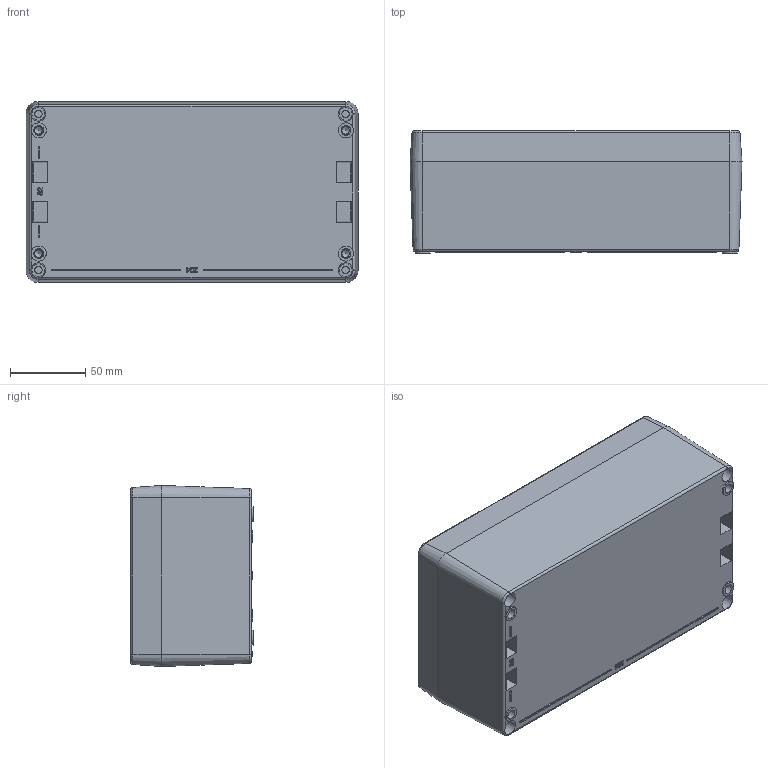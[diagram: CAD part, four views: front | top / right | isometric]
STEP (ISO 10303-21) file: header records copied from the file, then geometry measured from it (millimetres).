
FILE_DESCRIPTION(/* description */ (''),/* implementation_level */ '2;1');
FILE_NAME(/* name */ 'E:\Eng\Customer Service\Drawings\1590Z\STEP\1590Z150\1590Z150.iam.stp',/* time_stamp */ '2015-04-20T08:46:31-04:00',/* author */ ('rboehler'),/* organization */ (''),/* preprocessor_version */ 'ST-DEVELOPER v15.6',/* originating_system */ 'Autodesk Inventor 2015',/* authorisation */ '');
FILE_SCHEMA (('AUTOMOTIVE_DESIGN { 1 0 10303 214 3 1 1 }'));
Length unit declared in the file: millimetre
Products named in the file (6): 1590Z150 BOX; 1590Z150 LID; 1590Z150 GASKET; 1590Z150PL; SC564 (screw M6-1X 35mm PN); 1590Z150
Assembly tree (8 placements, depth 2):
  1590Z150
    1590Z150 BOX
    1590Z150 LID
    1590Z150 GASKET
    1590Z150PL
    SC564 (screw M6-1X 35mm PN)  x4
Bounding box: 221 x 81.5 x 120.5 mm (x, y, z)
Volume: 532354.7 mm3; surface area: 280276.4 mm2
Topology: 8 solids, 8 shells, 730 faces, 1894 edges, 1282 vertices
Faces by surface type: plane 388, cone 162, cylinder 80, bspline 52, torus 40, sphere 8
Full cylindrical faces by diameter (mm): 4.917 x10, 5 x4, 5.28 x4, 5.6 x4, 5.88 x4, 6.5 x4, 6.528 x6, 7 x4
Entity records: 19309 total; most frequent: CARTESIAN_POINT 4337, DIRECTION 3066, ORIENTED_EDGE 2958, EDGE_CURVE 1479, AXIS2_PLACEMENT_3D 1104, VERTEX_POINT 993, LINE 858, VECTOR 858
